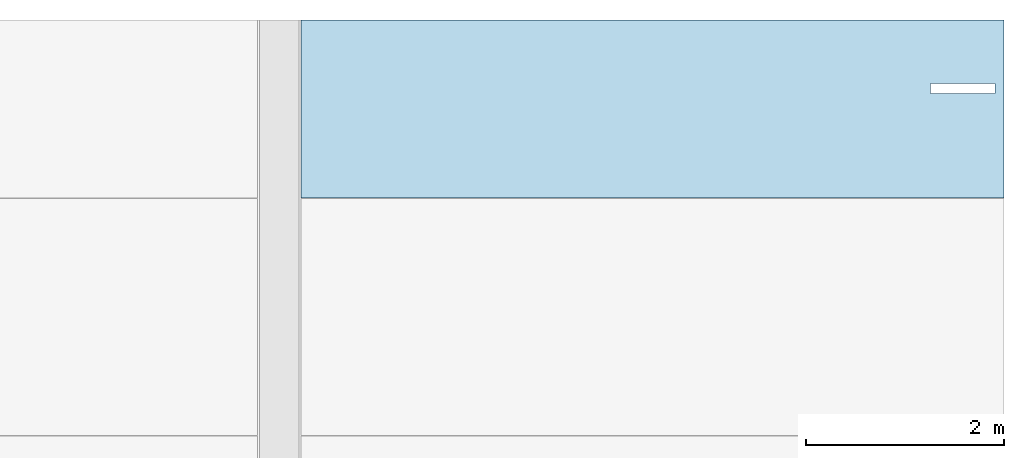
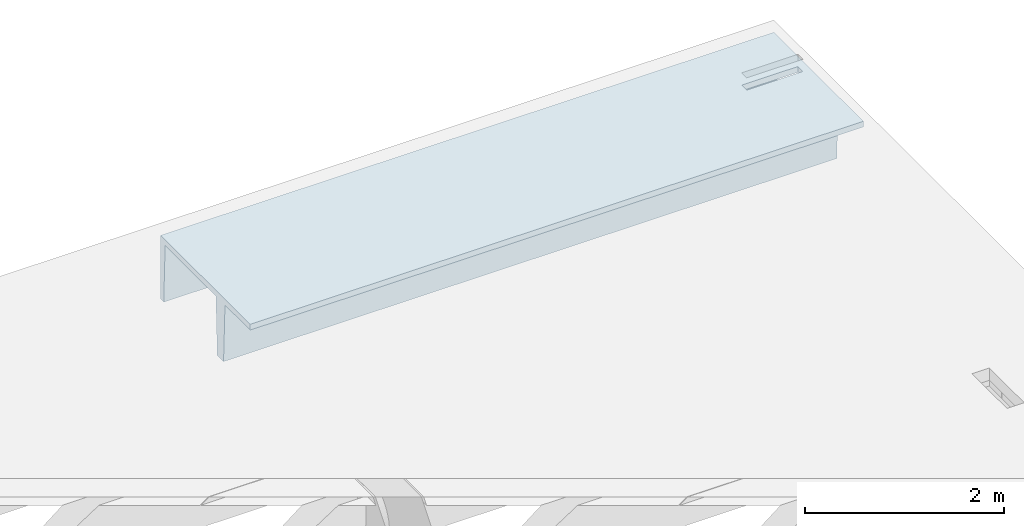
# One storey, part 4 of 4: 1 slab.
"""IFC2X3 building model written with IfcOpenShell, lengths in millimetres."""

from ifc_helpers import new_model, entity, si_unit, converted_unit, derived_unit, direction, frame, origin_with_axes, place, context, subcontext, project, spatial, faceted_brep, type_object, element, save


model = new_model("IFC2X3")

# Units and contexts
model_context = context("Model", 3, precision=0.01, world=frame((0.0, 4.29681676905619e-09, 0.0)), true_north=direction((4.01073788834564e-13, 1.0)))
plan_context = context("Plan", 3, precision=0.01, world=frame((0.0, 4.29681676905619e-09, 0.0)), true_north=direction((4.01073788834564e-13, 1.0)))
body_context = subcontext(model_context, "Body", "Model", "MODEL_VIEW")
ifc_project = project(units=[converted_unit("PLANEANGLEUNIT", "DEGREE", entity("IfcPositiveLengthMeasure", 0.0174532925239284), si_unit("PLANEANGLEUNIT", "RADIAN"), dimensions=[0, 0, 0, 0, 0, 0, 0]), si_unit("AREAUNIT", "SQUARE_METRE"), si_unit("LENGTHUNIT", "METRE", prefix="MILLI"), si_unit("MASSUNIT", "GRAM", prefix="KILO"), si_unit("POWERUNIT", "WATT"), si_unit("PRESSUREUNIT", "PASCAL"), si_unit("FORCEUNIT", "NEWTON", prefix="KILO"), si_unit("ELECTRICVOLTAGEUNIT", "VOLT"), si_unit("ELECTRICCURRENTUNIT", "AMPERE"), si_unit("THERMODYNAMICTEMPERATUREUNIT", "DEGREE_CELSIUS"), si_unit("TIMEUNIT", "SECOND"), si_unit("VOLUMEUNIT", "CUBIC_METRE"), derived_unit("LINEARVELOCITYUNIT", [(si_unit("LENGTHUNIT", "METRE"), 1), (si_unit("TIMEUNIT", "SECOND"), -1)]), derived_unit("VOLUMETRICFLOWRATEUNIT", [(si_unit("VOLUMEUNIT", "CUBIC_METRE"), 1), (si_unit("TIMEUNIT", "SECOND"), -1)]), derived_unit("THERMALTRANSMITTANCEUNIT", [(si_unit("POWERUNIT", "WATT"), 1), (si_unit("THERMODYNAMICTEMPERATUREUNIT", "KELVIN"), -1), (si_unit("AREAUNIT", "SQUARE_METRE"), -1)]), derived_unit("SOUNDPRESSUREUNIT", [(si_unit("PRESSUREUNIT", "PASCAL"), 1)])], contexts=[model_context, plan_context])

# Site, building, storey
site_placement = place(None, frame((0.0, -4.29681676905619e-09, 0.0), z_axis=(0.0, 0.0, 1.0), x_axis=(1.0, 0.0, 0.0)))
site = spatial("IfcSite", under=ifc_project, at=site_placement, Name="Gardermoen", CompositionType="ELEMENT")
building_placement = place(site_placement, frame((0.0, 4.29681676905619e-09, 0.0), z_axis=(0.0, 0.0, 1.0), x_axis=(1.0, 0.0, 0.0)))
building = spatial("IfcBuilding", under=site, at=building_placement, Name="TS", CompositionType="ELEMENT")
storey_placement = place(building_placement, origin_with_axes())
storey = spatial("IfcBuildingStorey", under=building, at=storey_placement, Name="F", CompositionType="ELEMENT", Elevation=0.0)

# Slab
slab_type = type_object("IfcSlabType", Name="TT800*2394-125-70-1200-0.04-0-0", PredefinedType="NOTDEFINED")
slab_placement = place(storey_placement, frame((529219.999766, 461299.995625, 210280.0), z_axis=(0.0, 0.0, 1.0), x_axis=(1.0, 0.0, 0.0)))
element("IfcSlab", 1, at=slab_placement, inside=storey, type_object=slab_type, Name="DT", ObjectType="TT800*2394-125-70-1200-0.04-0-0", PredefinedType="FLOOR", context=body_context, shape_type="Brep", body=[
    faceted_brep([(6360.02460665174, -40.0254001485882, 400.0), (6360.02460665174, -40.0254001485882, 330.0), (6360.02460665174, -140.000986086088, 330.0), (6360.02460665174, -140.000986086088, 400.0), (7009.98798555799, -40.0254001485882, 400.0), (7009.98798555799, -40.0254001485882, 330.0), (7009.98798555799, -140.000986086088, 400.0), (7009.98798555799, -140.000986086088, 330.0), (0.0, 600.004374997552, 400.0), (7100.50023400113, 600.004374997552, 400.0), (7100.50023400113, -1197.0, 400.0), (0.0, -1197.0, 400.0), (7100.50023400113, 508.299999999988, 330.0), (7100.50023400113, 536.699999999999, -380.0), (0.0, 536.7, -380.0), (0.0, 508.299999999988, 330.0), (0.0, -663.3, -380.0), (0.0, -536.7, -380.0), (0.0, -508.299999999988, 330.0), (4.54747350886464e-13, 600.004374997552, -380.0), (0.0, -1197.0, 330.0), (0.0, -691.700000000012, 330.0), (7100.50023400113, -536.699999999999, -380.0), (7100.50023400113, -508.299999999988, 330.0), (7100.50023400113, -691.700000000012, 330.0), (7100.50023400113, -663.300000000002, -380.0), (7100.50023400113, -1197.0, 330.0), (7100.50023400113, 600.004374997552, -380.0)], [[[0, 1, 2, 3]], [[4, 5, 1, 0]], [[6, 7, 5, 4]], [[3, 2, 7, 6]], [[8, 9, 10, 11], [3, 6, 4, 0]], [[12, 13, 14, 15]], [[16, 17, 18, 15, 14, 19, 8, 11, 20, 21]], [[17, 22, 23, 18]], [[24, 25, 16, 21]], [[26, 24, 21, 20]], [[10, 26, 20, 11]], [[23, 12, 15, 18], [5, 7, 2, 1]], [[13, 12, 23, 22, 25, 24, 26, 10, 9, 27]], [[9, 8, 19, 27]], [[19, 14, 13, 27]], [[22, 17, 16, 25]]], orient=[[False], [False], [False], [False], [False, False], [False], [False], [False], [False], [False], [False], [False, False], [False], [False], [False], [False]]),
])

save(model, "model.ifc")
